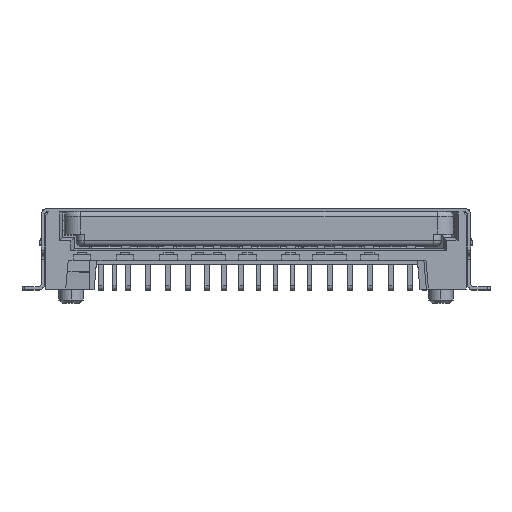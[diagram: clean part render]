
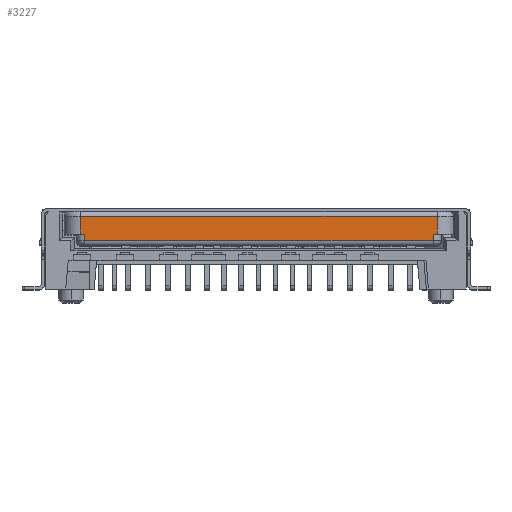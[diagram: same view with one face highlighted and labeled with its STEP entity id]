
A CAD part, top view. The second image highlights one B-rep face of the part: STEP entity #3227.
In plain terms, the highlighted planar face has unit normal (0, 0, 1).
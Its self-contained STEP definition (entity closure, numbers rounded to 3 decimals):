
#615=DIRECTION('',(-1.,0.,0.));
#616=VECTOR('',#615,22.);
#617=CARTESIAN_POINT('',(11.,1.1,16.));
#618=LINE('',#617,#616);
#661=DIRECTION('',(0.,-1.,0.));
#662=VECTOR('',#661,1.1);
#663=CARTESIAN_POINT('',(-11.,1.1,16.));
#664=LINE('',#663,#662);
#669=DIRECTION('',(-1.,0.,0.));
#670=VECTOR('',#669,0.25);
#671=CARTESIAN_POINT('',(11.,0.,16.));
#672=LINE('',#671,#670);
#677=DIRECTION('',(0.,-1.,0.));
#678=VECTOR('',#677,0.4);
#679=CARTESIAN_POINT('',(-10.75,0.,16.));
#680=LINE('',#679,#678);
#681=DIRECTION('',(1.,0.,0.));
#682=VECTOR('',#681,0.25);
#683=CARTESIAN_POINT('',(-11.,0.,16.));
#684=LINE('',#683,#682);
#747=DIRECTION('',(1.,0.,0.));
#748=VECTOR('',#747,21.5);
#749=CARTESIAN_POINT('',(-10.75,-0.4,16.));
#750=LINE('',#749,#748);
#839=DIRECTION('',(0.,1.,0.));
#840=VECTOR('',#839,0.4);
#841=CARTESIAN_POINT('',(10.75,-0.4,16.));
#842=LINE('',#841,#840);
#905=DIRECTION('',(0.,1.,0.));
#906=VECTOR('',#905,1.1);
#907=CARTESIAN_POINT('',(11.,0.,16.));
#908=LINE('',#907,#906);
#2461=CARTESIAN_POINT('',(11.,1.1,16.));
#2462=VERTEX_POINT('',#2461);
#2465=CARTESIAN_POINT('',(-11.,1.1,16.));
#2466=VERTEX_POINT('',#2465);
#2475=CARTESIAN_POINT('',(-11.,0.,16.));
#2476=VERTEX_POINT('',#2475);
#2479=CARTESIAN_POINT('',(-10.75,0.,16.));
#2480=CARTESIAN_POINT('',(-10.75,-0.4,16.));
#2481=VERTEX_POINT('',#2479);
#2482=VERTEX_POINT('',#2480);
#2483=CARTESIAN_POINT('',(11.,0.,16.));
#2484=VERTEX_POINT('',#2483);
#2485=CARTESIAN_POINT('',(10.75,0.,16.));
#2486=VERTEX_POINT('',#2485);
#2487=CARTESIAN_POINT('',(10.75,-0.4,16.));
#2488=VERTEX_POINT('',#2487);
#3206=CARTESIAN_POINT('',(12.,1.4,16.));
#3207=DIRECTION('',(0.,0.,-1.));
#3208=DIRECTION('',(-1.,0.,0.));
#3209=AXIS2_PLACEMENT_3D('',#3206,#3207,#3208);
#3210=PLANE('',#3209);
#3212=ORIENTED_EDGE('',*,*,#3211,.F.);
#3214=ORIENTED_EDGE('',*,*,#3213,.F.);
#3215=ORIENTED_EDGE('',*,*,#3194,.F.);
#3216=ORIENTED_EDGE('',*,*,#3133,.F.);
#3218=ORIENTED_EDGE('',*,*,#3217,.F.);
#3220=ORIENTED_EDGE('',*,*,#3219,.T.);
#3222=ORIENTED_EDGE('',*,*,#3221,.F.);
#3224=ORIENTED_EDGE('',*,*,#3223,.F.);
#3225=EDGE_LOOP('',(#3212,#3214,#3215,#3216,#3218,#3220,#3222,#3224));
#3226=FACE_OUTER_BOUND('',#3225,.F.);
#3133=EDGE_CURVE('',#2462,#2466,#618,.T.);
#3194=EDGE_CURVE('',#2466,#2476,#664,.T.);
#3211=EDGE_CURVE('',#2481,#2482,#680,.T.);
#3213=EDGE_CURVE('',#2476,#2481,#684,.T.);
#3217=EDGE_CURVE('',#2484,#2462,#908,.T.);
#3219=EDGE_CURVE('',#2484,#2486,#672,.T.);
#3221=EDGE_CURVE('',#2488,#2486,#842,.T.);
#3223=EDGE_CURVE('',#2482,#2488,#750,.T.);
#3227=ADVANCED_FACE('',(#3226),#3210,.F.);
